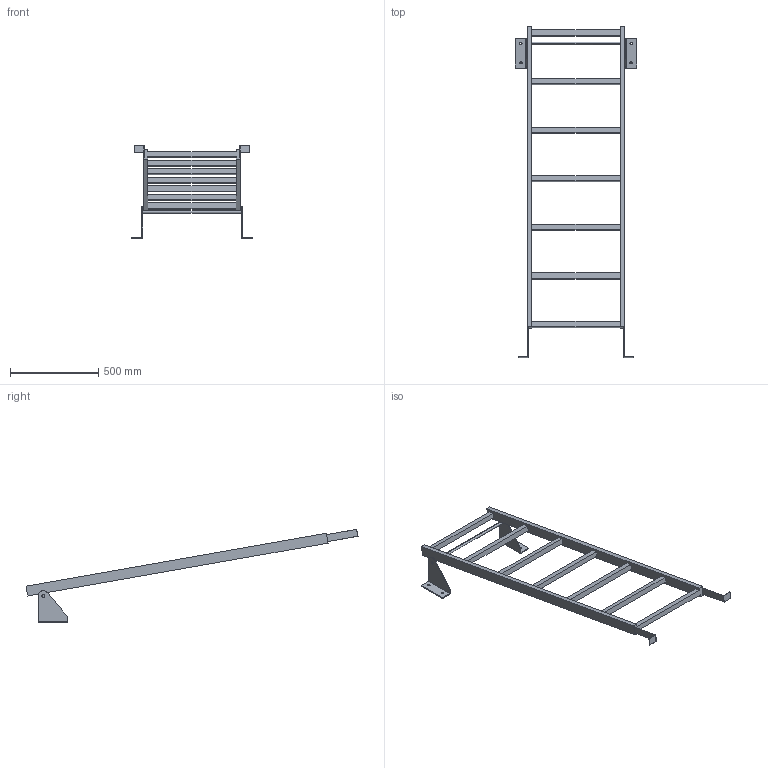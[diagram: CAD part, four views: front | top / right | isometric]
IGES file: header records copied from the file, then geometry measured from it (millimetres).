
Start section:  PTC IGES file: 52309758.igs
Global section: file name: 52309758.igs; native system: Creo Parametric by PTC Inc.; preprocessor: 2022162; author: wep; organization: Unknown; date: 20241017.085549; units: millimetre
Bounding box: 690 x 1883.5 x 529.55 mm (x, y, z)
Surface area: 1178718.7 mm2 (no closed solid volume)
Topology: 0 solids, 0 shells, 86 faces, 456 edges, 456 vertices
Faces by surface type: bspline 70, revolution 16
